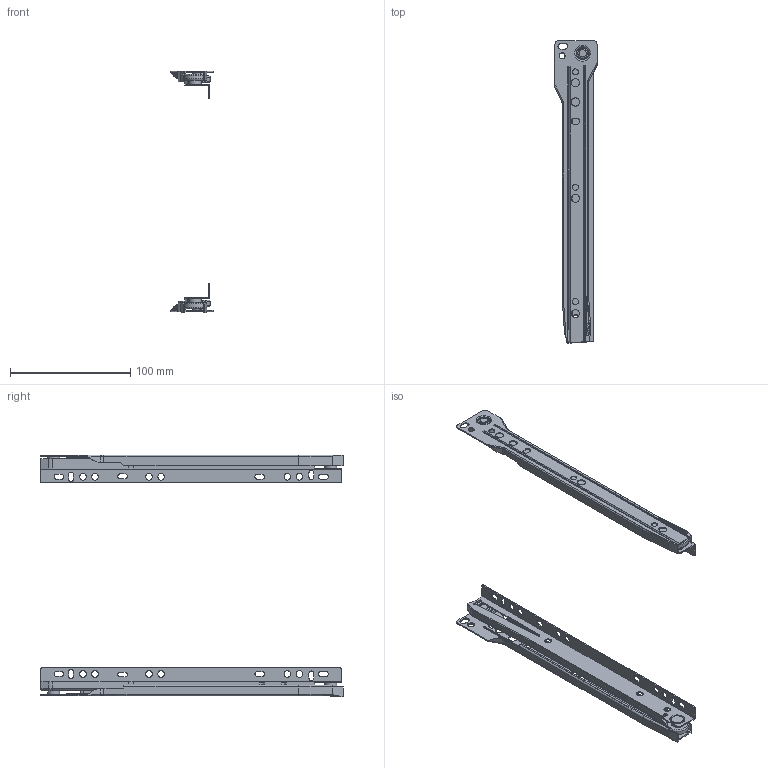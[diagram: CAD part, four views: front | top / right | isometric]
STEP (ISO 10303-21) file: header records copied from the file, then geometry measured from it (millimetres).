
FILE_DESCRIPTION(/* description */ (''),/* implementation_level */ '2;1');
FILE_NAME(/* name */ 'C:\Users\dmitruk\Documents\WORK\НАПРАВЛЯЮЩИЕ\Роликовые\Направляющие роликовая AKS 0.9 mm\Направляющие роликовая AKS 0.9 mm-250.stp',/* time_stamp */ '2022-07-29T15:04:40+03:00',/* author */ ('dmitruk'),/* organization */ (''),/* preprocessor_version */ 'ST-DEVELOPER v16.5',/* originating_system */ 'Autodesk Inventor 2017',/* authorisation */ '');
FILE_SCHEMA (('AUTOMOTIVE_DESIGN { 1 0 10303 214 3 1 1 }'));
Length unit declared in the file: millimetre
Products named in the file (5): Направляющие 
роликовая AKS 0.9 mm; rol_cr_09; rol_cl_09-01; rol_dr_09; rol_dl_09
Assembly tree (4 placements, depth 2):
  Направляющие 
роликовая AKS 0.9 mm
    rol_cr_09
    rol_cl_09-01
    rol_dr_09
    rol_dl_09
Bounding box: 35 x 251.38 x 201 mm (x, y, z)
Volume: 39755.3 mm3; surface area: 77094.3 mm2
Topology: 4 solids, 6 shells, 536 faces, 1385 edges, 868 vertices
Faces by surface type: plane 262, cylinder 199, cone 28, bspline 23, torus 22, sphere 2
Full cylindrical faces by diameter (mm): 5 x8, 5.5 x18, 6 x2, 6.1 x3, 6.8 x4, 7.8 x1, 9 x4, 10 x4, 14 x4, 19 x4
Entity records: 16802 total; most frequent: CARTESIAN_POINT 3189, DIRECTION 2807, ORIENTED_EDGE 2592, EDGE_CURVE 1290, AXIS2_PLACEMENT_3D 1009, VERTEX_POINT 868, LINE 789, VECTOR 789
